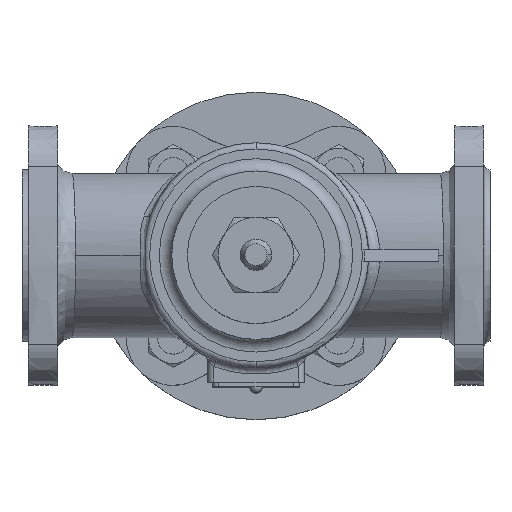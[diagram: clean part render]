
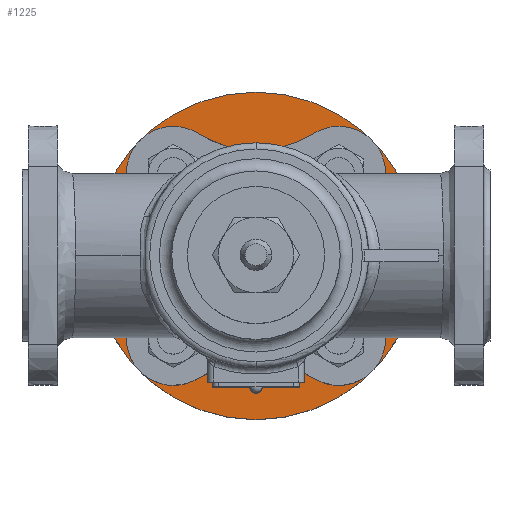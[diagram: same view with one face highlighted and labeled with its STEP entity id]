
A CAD part, top view. The second image highlights one B-rep face of the part: STEP entity #1225.
In plain terms, the highlighted planar face has unit normal (0, 0, 1).
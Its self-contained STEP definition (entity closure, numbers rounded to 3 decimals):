
#1225=ADVANCED_FACE('',(#1550,#1551,#1552,#1553,#1554,#1555),#1342,.T.);
#1342=PLANE('',#4749);
#1550=FACE_BOUND('',#1890,.T.);
#1551=FACE_BOUND('',#1891,.T.);
#1552=FACE_BOUND('',#1892,.T.);
#1553=FACE_BOUND('',#1893,.T.);
#1554=FACE_BOUND('',#1894,.T.);
#1555=FACE_BOUND('',#1895,.T.);
#1890=EDGE_LOOP('',(#3105));
#1891=EDGE_LOOP('',(#3106));
#1892=EDGE_LOOP('',(#3107));
#1893=EDGE_LOOP('',(#3108));
#1894=EDGE_LOOP('',(#3109));
#1895=EDGE_LOOP('',(#3110));
#3105=ORIENTED_EDGE('',*,*,#4156,.F.);
#3106=ORIENTED_EDGE('',*,*,#4151,.F.);
#3107=ORIENTED_EDGE('',*,*,#4150,.F.);
#3108=ORIENTED_EDGE('',*,*,#4149,.F.);
#3109=ORIENTED_EDGE('',*,*,#4148,.F.);
#3110=ORIENTED_EDGE('',*,*,#4147,.T.);
#3536=VERTEX_POINT('',#10663);
#3537=VERTEX_POINT('',#10666);
#3538=VERTEX_POINT('',#10669);
#3539=VERTEX_POINT('',#10672);
#3540=VERTEX_POINT('',#10675);
#3545=VERTEX_POINT('',#10690);
#4147=EDGE_CURVE('',#3536,#3536,#4330,.T.);
#4148=EDGE_CURVE('',#3537,#3537,#4331,.T.);
#4149=EDGE_CURVE('',#3538,#3538,#4332,.T.);
#4150=EDGE_CURVE('',#3539,#3539,#4333,.T.);
#4151=EDGE_CURVE('',#3540,#3540,#4334,.T.);
#4156=EDGE_CURVE('',#3545,#3545,#4339,.T.);
#4330=CIRCLE('',#4730,52.5);
#4331=CIRCLE('',#4732,7.);
#4332=CIRCLE('',#4734,7.);
#4333=CIRCLE('',#4736,7.);
#4334=CIRCLE('',#4738,7.);
#4339=CIRCLE('',#4748,27.5);
#4730=AXIS2_PLACEMENT_3D('',#10662,#5749,#5750);
#4732=AXIS2_PLACEMENT_3D('',#10665,#5753,#5754);
#4734=AXIS2_PLACEMENT_3D('',#10668,#5757,#5758);
#4736=AXIS2_PLACEMENT_3D('',#10671,#5761,#5762);
#4738=AXIS2_PLACEMENT_3D('',#10674,#5765,#5766);
#4748=AXIS2_PLACEMENT_3D('',#10689,#5785,#5786);
#4749=AXIS2_PLACEMENT_3D('',#10691,#5787,#5788);
#5749=DIRECTION('',(0.,0.,1.));
#5750=DIRECTION('',(0.,-1.,0.));
#5753=DIRECTION('',(0.,0.,1.));
#5754=DIRECTION('',(1.,0.,0.));
#5757=DIRECTION('',(0.,0.,1.));
#5758=DIRECTION('',(1.,0.,0.));
#5761=DIRECTION('',(0.,0.,1.));
#5762=DIRECTION('',(1.,0.,0.));
#5765=DIRECTION('',(0.,0.,1.));
#5766=DIRECTION('',(1.,0.,0.));
#5785=DIRECTION('',(0.,0.,1.));
#5786=DIRECTION('',(1.,0.,0.));
#5787=DIRECTION('',(0.,0.,1.));
#5788=DIRECTION('',(1.,0.,0.));
#10662=CARTESIAN_POINT('',(155.,0.,-76.));
#10663=CARTESIAN_POINT('',(155.,-52.5,-76.));
#10665=CARTESIAN_POINT('',(181.5,-26.5,-76.));
#10666=CARTESIAN_POINT('',(188.5,-26.5,-76.));
#10668=CARTESIAN_POINT('',(181.5,26.5,-76.));
#10669=CARTESIAN_POINT('',(188.5,26.5,-76.));
#10671=CARTESIAN_POINT('',(128.5,26.5,-76.));
#10672=CARTESIAN_POINT('',(135.5,26.5,-76.));
#10674=CARTESIAN_POINT('',(128.5,-26.5,-76.));
#10675=CARTESIAN_POINT('',(135.5,-26.5,-76.));
#10689=CARTESIAN_POINT('',(155.,0.,-76.));
#10690=CARTESIAN_POINT('',(182.5,0.,-76.));
#10691=CARTESIAN_POINT('',(155.,0.,-76.));
